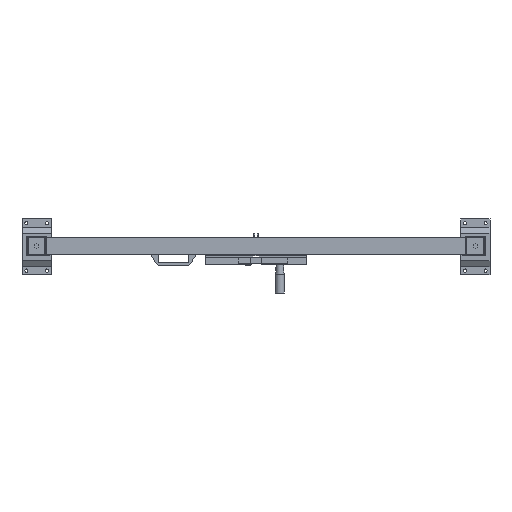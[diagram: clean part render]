
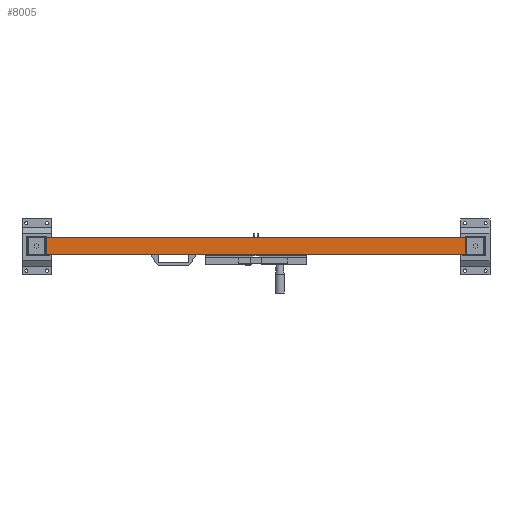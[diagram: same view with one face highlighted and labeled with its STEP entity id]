
A CAD part, top view. The second image highlights one B-rep face of the part: STEP entity #8005.
In plain terms, the highlighted planar face has unit normal (0, 0, 1).
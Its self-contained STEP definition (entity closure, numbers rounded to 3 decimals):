
#746=FACE_OUTER_BOUND('',#1157,.T.);
#1157=EDGE_LOOP('',(#5621,#5622,#5623,#5624));
#1668=LINE('',#11262,#2677);
#1669=LINE('',#11265,#2678);
#1670=LINE('',#11267,#2679);
#1671=LINE('',#11268,#2680);
#2677=VECTOR('',#9100,1.);
#2678=VECTOR('',#9103,1.);
#2679=VECTOR('',#9104,1.);
#2680=VECTOR('',#9105,1.);
#3663=VERTEX_POINT('',#11255);
#3666=VERTEX_POINT('',#11260);
#3667=VERTEX_POINT('',#11264);
#3668=VERTEX_POINT('',#11266);
#4459=EDGE_CURVE('',#3663,#3666,#1668,.T.);
#4460=EDGE_CURVE('',#3667,#3663,#1669,.T.);
#4461=EDGE_CURVE('',#3668,#3666,#1670,.T.);
#4462=EDGE_CURVE('',#3667,#3668,#1671,.T.);
#5621=ORIENTED_EDGE('',*,*,#4460,.T.);
#5622=ORIENTED_EDGE('',*,*,#4459,.T.);
#5623=ORIENTED_EDGE('',*,*,#4461,.F.);
#5624=ORIENTED_EDGE('',*,*,#4462,.F.);
#7640=PLANE('',#8447);
#8005=ADVANCED_FACE('',(#746),#7640,.T.);
#8447=AXIS2_PLACEMENT_3D('',#11263,#9101,#9102);
#9100=DIRECTION('',(1.,0.,0.));
#9101=DIRECTION('center_axis',(0.,0.,1.));
#9102=DIRECTION('ref_axis',(0.,-1.,0.));
#9103=DIRECTION('',(0.,-1.,0.));
#9104=DIRECTION('',(0.,-1.,0.));
#9105=DIRECTION('',(1.,0.,0.));
#11255=CARTESIAN_POINT('',(1904.426,1615.841,2099.));
#11260=CARTESIAN_POINT('',(3344.426,1615.841,2099.));
#11262=CARTESIAN_POINT('',(1904.426,1615.841,2099.));
#11263=CARTESIAN_POINT('Origin',(1904.426,1675.841,2099.));
#11264=CARTESIAN_POINT('',(1904.426,1675.841,2099.));
#11265=CARTESIAN_POINT('',(1904.426,1675.841,2099.));
#11266=CARTESIAN_POINT('',(3344.426,1675.841,2099.));
#11267=CARTESIAN_POINT('',(3344.426,1675.841,2099.));
#11268=CARTESIAN_POINT('',(1904.426,1675.841,2099.));
